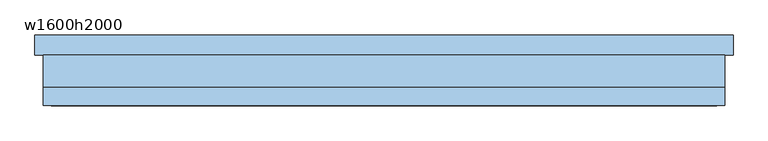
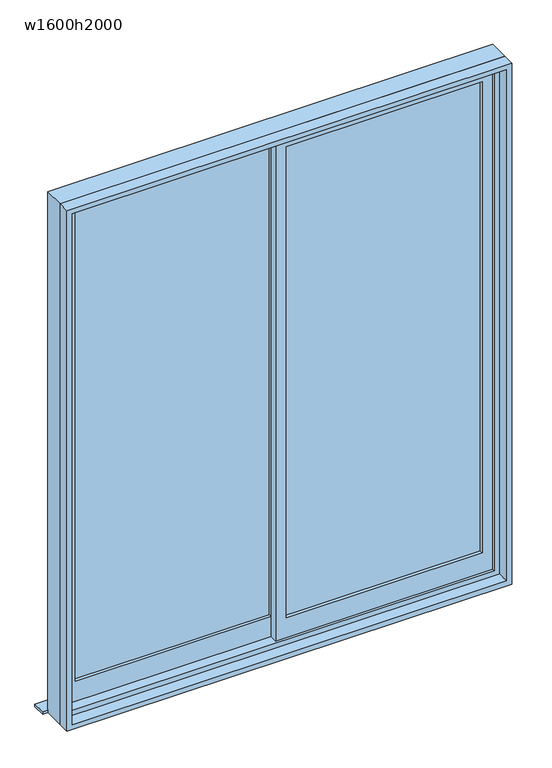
"""IFC4 building model written with IfcOpenShell, lengths in millimetres: window geometry, 引違い掃出窓_2枚 : w1600h2000."""

from ifc_helpers import new_model, si_unit, frame, origin, place, context, project, spatial, polyline, outline, extrude, source, transform, mapped, element, save


def w1600h2000_0297a6ef(model_context):
    return source(origin(), model_context, "Body", "SweptSolid", [
        extrude(outline(polyline([(-20.0, 12.5), (-760.0, 12.5), (-760.0, 17.5), (-20.0, 17.5), (-20.0, 12.5)])), frame((0.0, 0.0, 80.0), z_axis=(0.0, 0.0, 1.0), x_axis=(1.0, 0.0, 0.0)), (0.0, 0.0, 1.0), 1880.0),
        extrude(outline(polyline([(760.0, -17.5), (20.0, -17.5), (20.0, -12.5), (760.0, -12.5), (760.0, -17.5)])), frame((0.0, 0.0, 80.0), z_axis=(0.0, 0.0, 1.0), x_axis=(1.0, 0.0, 0.0)), (0.0, 0.0, 1.0), 1880.0),
        extrude(outline(polyline([(2000.0, -20.0), (0.0, -20.0), (0.0, 800.0), (2000.0, 800.0), (2000.0, -20.0)]), holes=[polyline([(80.0, 760.0), (80.0, 20.0), (1960.0, 20.0), (1960.0, 760.0), (80.0, 760.0)])]), frame((0.0, -30.0, 0.0), z_axis=(0.0, 1.0, 0.0), x_axis=(0.0, 0.0, 1.0)), (0.0, 0.0, 1.0), 30.0),
        extrude(outline(polyline([(2000.0, -800.0), (0.0, -800.0), (0.0, 20.0), (2000.0, 20.0), (2000.0, -800.0)]), holes=[polyline([(80.0, -20.0), (80.0, -760.0), (1960.0, -760.0), (1960.0, -20.0), (80.0, -20.0)])]), frame((0.0, 0.0, 0.0), z_axis=(0.0, 1.0, 0.0), x_axis=(0.0, 0.0, 1.0)), (0.0, 0.0, 1.0), 30.0),
        extrude(outline(polyline([(860.0, 90.0), (860.0, 40.0), (-860.0, 40.0), (-860.0, 90.0), (860.0, 90.0)])), frame((0.0, 0.0, -40.0), z_axis=(0.0, 0.0, 1.0), x_axis=(1.0, 0.0, 0.0)), (0.0, 0.0, 1.0), 10.0),
        extrude(outline(polyline([(2040.0, 840.0), (2040.0, -840.0), (-40.0, -840.0), (-40.0, 840.0), (2040.0, 840.0)]), holes=[polyline([(-20.0, -820.0), (2020.0, -820.0), (2020.0, 820.0), (-20.0, 820.0), (-20.0, -820.0)])]), frame((0.0, -85.0, 0.0), z_axis=(0.0, 1.0, 0.0), x_axis=(0.0, 0.0, 1.0)), (0.0, 0.0, 1.0), 45.0),
        extrude(outline(polyline([(2040.0, -840.0), (-40.0, -840.0), (-40.0, 840.0), (2040.0, 840.0), (2040.0, -840.0)]), holes=[polyline([(2000.0, 800.0), (0.0, 800.0), (0.0, -800.0), (2000.0, -800.0), (2000.0, 800.0)])]), frame((0.0, -40.0, 0.0), z_axis=(0.0, 1.0, 0.0), x_axis=(0.0, 0.0, 1.0)), (0.0, 0.0, 1.0), 80.0),
    ])


if __name__ == "__main__":
    model = new_model("IFC4")
    model_context = context("Model", 3, world=origin())
    ifc_project = project(units=[si_unit("LENGTHUNIT", "METRE", prefix="MILLI")], contexts=[model_context])
    site = spatial("IfcSite", under=ifc_project)
    building = spatial("IfcBuilding", under=site)
    placement = place(None, origin())
    w1600h2000_shape = w1600h2000_0297a6ef(model_context)
    element("IfcWindow", 1, ObjectType="引違い掃出窓_2枚 : w1600h2000", at=placement, inside=building, context=model_context, shape_type="MappedRepresentation", body=[
        mapped(w1600h2000_shape, transform((0.0, 0.0, 0.0), x_axis=(1.0, 0.0, 0.0), y_axis=(0.0, 1.0, 0.0), z_axis=(0.0, 0.0, 1.0))),
    ])
    save(model, "model.ifc")
